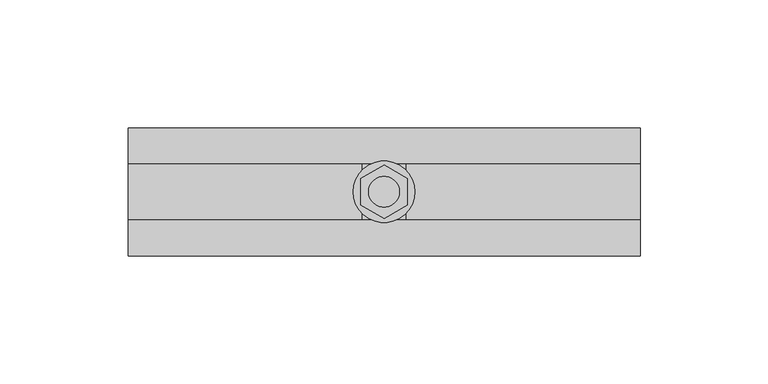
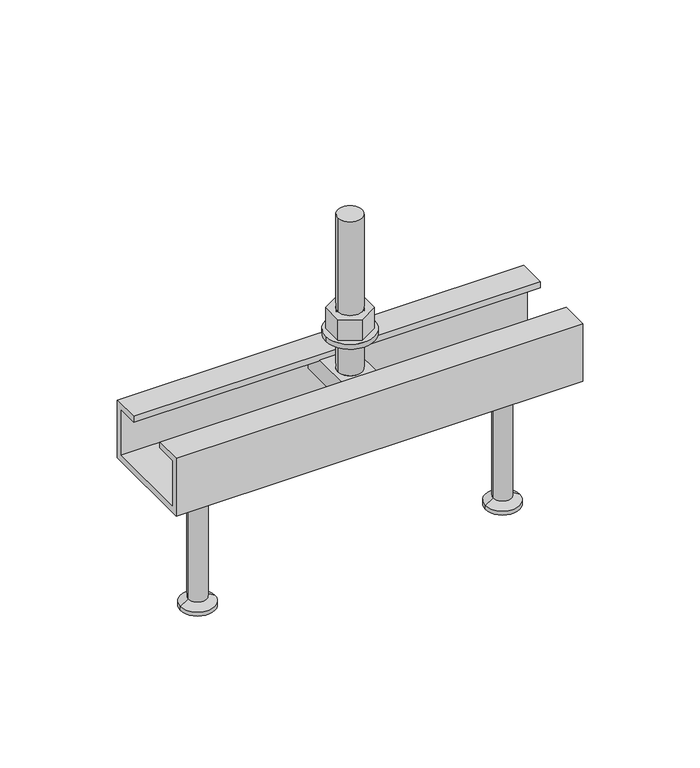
"""IFC4 building model written with IfcOpenShell, lengths in millimetres: fastener geometry, JTA-K JORDAHL® AnchorChannels : JTA-K L=200 mm."""

from ifc_helpers import new_model, si_unit, point, frame, frame_2d, origin, place, context, project, spatial, polyline, circle_curve, trimmed, segment, composite_curve, outline, extrude, source, transform, mapped, element, save
from ifc_brep_helpers import plane_surface, cylinder_surface, revolved_surface, advanced_brep


def fastener_0efea10d(model_context):
    return source(origin(), model_context, "Body", "SolidModel", [
        extrude(outline(polyline([(100.0, -10.3923048), (91.0, -5.1961524), (91.0, 5.1961524), (100.0, 10.3923048), (109.0, 5.1961524), (109.0, -5.1961524), (100.0, -10.3923048)]), holes=[composite_curve([segment(trimmed(circle_curve(frame_2d((100.0, 0.0)), 6.0), [point((94.0, 0.0))], [point((106.0, 0.0))], True, "CARTESIAN"), True, "CONTINUOUS"), segment(trimmed(circle_curve(frame_2d((100.0, 0.0)), 6.0), [point((106.0, 0.0))], [point((94.0, 0.0))], True, "CARTESIAN"), True, "CONTINUOUS")], self_intersect=False)]), frame((0.0, 0.0, 17.5), z_axis=(0.0, 0.0, 1.0), x_axis=(1.0, 0.0, 0.0)), (0.0, 0.0, 1.0), 10.8),
        extrude(outline(composite_curve([segment(trimmed(circle_curve(frame_2d((100.0, 0.0)), 12.0), [point((88.0, 0.0))], [point((112.0, 0.0))], False, "CARTESIAN"), True, "CONTINUOUS"), segment(trimmed(circle_curve(frame_2d((100.0, 0.0)), 12.0), [point((112.0, 0.0))], [point((88.0, 0.0))], False, "CARTESIAN"), True, "CONTINUOUS")], self_intersect=False), holes=[composite_curve([segment(trimmed(circle_curve(frame_2d((100.0, 0.0)), 6.5), [point((93.5, 0.0))], [point((106.5, 0.0))], True, "CARTESIAN"), True, "CONTINUOUS"), segment(trimmed(circle_curve(frame_2d((100.0, 0.0)), 6.5), [point((106.5, 0.0))], [point((93.5, 0.0))], True, "CARTESIAN"), True, "CONTINUOUS")], self_intersect=False)]), frame((0.0, 0.0, 15.0), z_axis=(0.0, 0.0, 1.0), x_axis=(1.0, 0.0, 0.0)), (0.0, 0.0, 1.0), 2.5),
        advanced_brep(
        [(108.5, -20.7, -3.0), (108.5, -20.7, -13.0), (108.5, 20.7, -13.0), (108.5, 20.7, -3.0), (91.5, -20.7, -3.0), (91.5, 20.7, -3.0), (91.5, 20.7, -13.0), (91.5, -20.7, -13.0), (106.0, 0.0, -3.0), (94.0, 0.0, -3.0), (94.0, 0.0, 77.0), (106.0, 0.0, 77.0)],
        [
            (0, 1),
            (1, 2),
            (2, 3),
            (3, 0),
            (4, 5),
            (5, 6),
            (6, 7),
            (7, 4),
            (3, 5),
            (4, 0),
            (8, 9, circle_curve(frame((100.0, 0.0, -3.0), z_axis=(0.0, 0.0, -1.0), x_axis=(1.0, 0.0, 0.0)), 6.0)),
            (9, 8, circle_curve(frame((100.0, 0.0, -3.0), z_axis=(0.0, 0.0, -1.0), x_axis=(1.0, 0.0, 0.0)), 6.0)),
            (2, 6),
            (1, 7),
            (10, 11, circle_curve(frame((100.0, 0.0, 77.0), z_axis=(0.0, 0.0, 1.0), x_axis=(1.0, 0.0, 0.0)), 6.0)),
            (11, 10, circle_curve(frame((100.0, 0.0, 77.0), z_axis=(0.0, 0.0, 1.0), x_axis=(1.0, 0.0, 0.0)), 6.0)),
            (11, 8),
            (9, 10),
        ],
        [
            plane_surface(frame((108.5, 20.7, -3.0), z_axis=(1.0, 0.0, 0.0), x_axis=(0.0, 1.0, 0.0))),
            plane_surface(frame((91.5, 20.7, -3.0), z_axis=(-1.0, 0.0, 0.0), x_axis=(0.0, -1.0, 0.0))),
            plane_surface(frame((108.5, -20.7, -3.0), z_axis=(0.0, 0.0, 1.0), x_axis=(-1.0, 0.0, 0.0))),
            plane_surface(frame((108.5, 20.7, -3.0), z_axis=(0.0, 1.0, 0.0), x_axis=(-1.0, 0.0, 0.0))),
            plane_surface(frame((108.5, 20.7, -13.0), z_axis=(0.0, 0.0, -1.0), x_axis=(-1.0, 0.0, 0.0))),
            plane_surface(frame((108.5, -20.7, -13.0), z_axis=(0.0, -1.0, 0.0), x_axis=(-1.0, 0.0, 0.0))),
            plane_surface(frame((106.0, 0.0, 77.0), z_axis=(0.0, 0.0, 1.0), x_axis=(0.0, -1.0, 0.0))),
            cylinder_surface(frame((100.0, 0.0, -3.0), z_axis=(0.0, 0.0, 1.0), x_axis=(1.0, 0.0, 0.0)), 6.0),
        ],
        [
            (0, [[1, 2, 3, 4]]),
            (1, [[5, 6, 7, 8]]),
            (2, [[9, -5, 10, -4], [11, 12]]),
            (3, [[13, -6, -9, -3]]),
            (4, [[14, -7, -13, -2]]),
            (5, [[-10, -8, -14, -1]]),
            (6, [[15, 16]]),
            (7, [[17, -12, 18, -16]]),
            (7, [[-18, -11, -17, -15]]),
        ],
    ),
        advanced_brep(
        [(175.0, 0.0, -30.0), (161.5, 0.0, -30.0), (188.5, 0.0, -30.0), (166.5, 0.0, -100.0), (175.0, 0.0, -100.0), (183.5, 0.0, -100.0), (166.5, 0.0, -98.0), (183.5, 0.0, -98.0), (170.5, 0.0, -95.6905989), (179.5, 0.0, -95.6905989), (170.5, 0.0, -32.5), (179.5, 0.0, -32.5)],
        [
            (0, 1),
            (1, 2, circle_curve(frame((175.0, 0.0, -30.0), z_axis=(0.0, 0.0, 1.0), x_axis=(1.0, 0.0, 0.0)), 13.5)),
            (2, 0),
            (2, 1, circle_curve(frame((175.0, 0.0, -30.0), z_axis=(0.0, 0.0, 1.0), x_axis=(1.0, 0.0, 0.0)), 13.5)),
            (3, 4),
            (4, 5),
            (5, 3, circle_curve(frame((175.0, 0.0, -100.0), z_axis=(0.0, 0.0, -1.0), x_axis=(1.0, 0.0, 0.0)), 8.5)),
            (3, 5, circle_curve(frame((175.0, 0.0, -100.0), z_axis=(0.0, 0.0, -1.0), x_axis=(1.0, 0.0, 0.0)), 8.5)),
            (6, 3),
            (5, 7),
            (7, 6, circle_curve(frame((175.0, 0.0, -98.0), z_axis=(0.0, 0.0, -1.0), x_axis=(1.0, 0.0, 0.0)), 8.5)),
            (6, 7, circle_curve(frame((175.0, 0.0, -98.0), z_axis=(0.0, 0.0, -1.0), x_axis=(1.0, 0.0, 0.0)), 8.5)),
            (8, 6),
            (7, 9),
            (9, 8, circle_curve(frame((175.0, 0.0, -95.6905989), z_axis=(0.0, 0.0, -1.0), x_axis=(1.0, 0.0, 0.0)), 4.5)),
            (8, 9, circle_curve(frame((175.0, 0.0, -95.6905989), z_axis=(0.0, 0.0, -1.0), x_axis=(1.0, 0.0, 0.0)), 4.5)),
            (10, 8),
            (9, 11),
            (11, 10, circle_curve(frame((175.0, 0.0, -32.5), z_axis=(0.0, 0.0, -1.0), x_axis=(1.0, 0.0, 0.0)), 4.5)),
            (10, 11, circle_curve(frame((175.0, 0.0, -32.5), z_axis=(0.0, 0.0, -1.0), x_axis=(1.0, 0.0, 0.0)), 4.5)),
            (1, 10),
            (11, 2),
        ],
        [
            plane_surface(frame((175.0, 0.0, -30.0), z_axis=(0.0, 0.0, 1.0), x_axis=(1.0, 0.0, 0.0))),
            plane_surface(frame((175.0, 0.0, -100.0), z_axis=(0.0, 0.0, -1.0), x_axis=(1.0, 0.0, 0.0))),
            cylinder_surface(frame((175.0, 0.0, 2284.3150031), z_axis=(0.0, 0.0, 1.0), x_axis=(1.0, 0.0, 0.0)), 8.5),
            revolved_surface(polyline([(183.5, 0.0, -98.0), (179.5, 0.0, -95.6905989)]), (175.0, 0.0, 2284.3150031), (0.0, 0.0, 1.0)),
            cylinder_surface(frame((175.0, 0.0, 2284.3150031), z_axis=(0.0, 0.0, 1.0), x_axis=(1.0, 0.0, 0.0)), 4.5),
            revolved_surface(polyline([(179.5, 0.0, -32.5), (188.5, 0.0, -30.0)]), (175.0, 0.0, 2284.3150031), (0.0, 0.0, 1.0)),
        ],
        [
            (0, [[1, 2, 3]]),
            (0, [[-3, 4, -1]]),
            (1, [[5, 6, 7]]),
            (1, [[-6, -5, 8]]),
            (2, [[9, -7, 10, 11]]),
            (2, [[-10, -8, -9, 12]]),
            (3, [[13, -11, 14, 15]]),
            (3, [[-14, -12, -13, 16]]),
            (4, [[17, -15, 18, 19]]),
            (4, [[-18, -16, -17, 20]]),
            (5, [[21, -19, 22, -2]]),
            (5, [[-22, -20, -21, -4]]),
        ],
    ),
        advanced_brep(
        [(25.0, 0.0, -30.0), (11.5, 0.0, -30.0), (38.5, 0.0, -30.0), (16.5, 0.0, -100.0), (25.0, 0.0, -100.0), (33.5, 0.0, -100.0), (16.5, 0.0, -98.0), (33.5, 0.0, -98.0), (20.5, 0.0, -95.6905989), (29.5, 0.0, -95.6905989), (20.5, 0.0, -32.5), (29.5, 0.0, -32.5)],
        [
            (0, 1),
            (1, 2, circle_curve(frame((25.0, 0.0, -30.0), z_axis=(0.0, 0.0, 1.0), x_axis=(1.0, 0.0, 0.0)), 13.5)),
            (2, 0),
            (2, 1, circle_curve(frame((25.0, 0.0, -30.0), z_axis=(0.0, 0.0, 1.0), x_axis=(1.0, 0.0, 0.0)), 13.5)),
            (3, 4),
            (4, 5),
            (5, 3, circle_curve(frame((25.0, 0.0, -100.0), z_axis=(0.0, 0.0, -1.0), x_axis=(1.0, 0.0, 0.0)), 8.5)),
            (3, 5, circle_curve(frame((25.0, 0.0, -100.0), z_axis=(0.0, 0.0, -1.0), x_axis=(1.0, 0.0, 0.0)), 8.5)),
            (6, 3),
            (5, 7),
            (7, 6, circle_curve(frame((25.0, 0.0, -98.0), z_axis=(0.0, 0.0, -1.0), x_axis=(1.0, 0.0, 0.0)), 8.5)),
            (6, 7, circle_curve(frame((25.0, 0.0, -98.0), z_axis=(0.0, 0.0, -1.0), x_axis=(1.0, 0.0, 0.0)), 8.5)),
            (8, 6),
            (7, 9),
            (9, 8, circle_curve(frame((25.0, 0.0, -95.6905989), z_axis=(0.0, 0.0, -1.0), x_axis=(1.0, 0.0, 0.0)), 4.5)),
            (8, 9, circle_curve(frame((25.0, 0.0, -95.6905989), z_axis=(0.0, 0.0, -1.0), x_axis=(1.0, 0.0, 0.0)), 4.5)),
            (10, 8),
            (9, 11),
            (11, 10, circle_curve(frame((25.0, 0.0, -32.5), z_axis=(0.0, 0.0, -1.0), x_axis=(1.0, 0.0, 0.0)), 4.5)),
            (10, 11, circle_curve(frame((25.0, 0.0, -32.5), z_axis=(0.0, 0.0, -1.0), x_axis=(1.0, 0.0, 0.0)), 4.5)),
            (1, 10),
            (11, 2),
        ],
        [
            plane_surface(frame((25.0, 0.0, -30.0), z_axis=(0.0, 0.0, 1.0), x_axis=(1.0, 0.0, 0.0))),
            plane_surface(frame((25.0, 0.0, -100.0), z_axis=(0.0, 0.0, -1.0), x_axis=(1.0, 0.0, 0.0))),
            cylinder_surface(frame((25.0, 0.0, 2284.3150031), z_axis=(0.0, 0.0, 1.0), x_axis=(1.0, 0.0, 0.0)), 8.5),
            revolved_surface(polyline([(33.5, 0.0, -98.0), (29.5, 0.0, -95.6905989)]), (25.0, 0.0, 2284.3150031), (0.0, 0.0, 1.0)),
            cylinder_surface(frame((25.0, 0.0, 2284.3150031), z_axis=(0.0, 0.0, 1.0), x_axis=(1.0, 0.0, 0.0)), 4.5),
            revolved_surface(polyline([(29.5, 0.0, -32.5), (38.5, 0.0, -30.0)]), (25.0, 0.0, 2284.3150031), (0.0, 0.0, 1.0)),
        ],
        [
            (0, [[1, 2, 3]]),
            (0, [[-3, 4, -1]]),
            (1, [[5, 6, 7]]),
            (1, [[-6, -5, 8]]),
            (2, [[9, -7, 10, 11]]),
            (2, [[-10, -8, -9, 12]]),
            (3, [[13, -11, 14, 15]]),
            (3, [[-14, -12, -13, 16]]),
            (4, [[17, -15, 18, 19]]),
            (4, [[-18, -16, -17, 20]]),
            (5, [[21, -19, 22, -2]]),
            (5, [[-22, -20, -21, -4]]),
        ],
    ),
        extrude(outline(polyline([(-25.0, 0.0), (-11.0, 0.0), (-11.0, -3.0), (-22.0, -3.0), (-22.0, -27.0), (22.0, -27.0), (22.0, -3.0), (11.0, -3.0), (11.0, 0.0), (25.0, 0.0), (25.0, -30.0), (-25.0, -30.0), (-25.0, 0.0)])), frame((0.0, 0.0, 0.0), z_axis=(1.0, 0.0, 0.0), x_axis=(0.0, 1.0, 0.0)), (0.0, 0.0, 1.0), 200.0),
    ])


if __name__ == "__main__":
    model = new_model("IFC4")
    model_context = context("Model", 3, world=origin())
    ifc_project = project(units=[si_unit("LENGTHUNIT", "METRE", prefix="MILLI")], contexts=[model_context])
    site = spatial("IfcSite", under=ifc_project)
    building = spatial("IfcBuilding", under=site)
    placement = place(None, origin())
    fastener_shape = fastener_0efea10d(model_context)
    element("IfcFastener", 1, ObjectType="JTA-K JORDAHL® AnchorChannels : JTA-K L=200 mm", at=placement, inside=building, context=model_context, shape_type="MappedRepresentation", body=[
        mapped(fastener_shape, transform((0.0, 0.0, 0.0), x_axis=(1.0, 0.0, 0.0), y_axis=(0.0, 1.0, 0.0), z_axis=(0.0, 0.0, 1.0))),
    ])
    save(model, "model.ifc")
